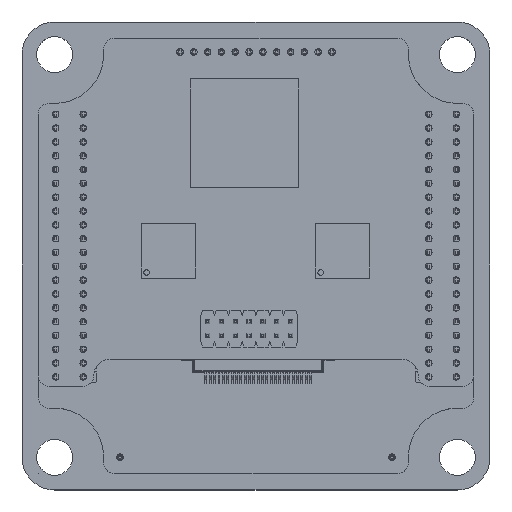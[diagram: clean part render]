
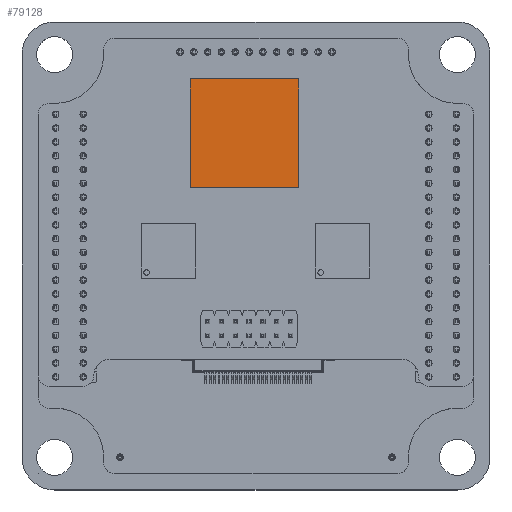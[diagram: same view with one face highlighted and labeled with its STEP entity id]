
A CAD part, top view. The second image highlights one B-rep face of the part: STEP entity #79128.
In plain terms, the highlighted planar face has unit normal (0, 0, 1).
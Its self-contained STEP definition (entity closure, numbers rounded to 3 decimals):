
#78814 = VERTEX_POINT('',#78815);
#78815 = CARTESIAN_POINT('',(-5.,-5.,1.));
#78822 = PLANE('',#78823);
#78823 = AXIS2_PLACEMENT_3D('',#78824,#78825,#78826);
#78824 = CARTESIAN_POINT('',(-5.,-5.,0.));
#78825 = DIRECTION('',(0.,1.,0.));
#78826 = DIRECTION('',(1.,0.,0.));
#78834 = PLANE('',#78835);
#78835 = AXIS2_PLACEMENT_3D('',#78836,#78837,#78838);
#78836 = CARTESIAN_POINT('',(-5.,5.,0.));
#78837 = DIRECTION('',(1.,0.,0.));
#78838 = DIRECTION('',(0.,-1.,0.));
#78846 = EDGE_CURVE('',#78814,#78847,#78849,.T.);
#78847 = VERTEX_POINT('',#78848);
#78848 = CARTESIAN_POINT('',(5.,-5.,1.));
#78849 = SURFACE_CURVE('',#78850,(#78854,#78861),.PCURVE_S1.);
#78850 = LINE('',#78851,#78852);
#78851 = CARTESIAN_POINT('',(-5.,-5.,1.));
#78852 = VECTOR('',#78853,1.);
#78853 = DIRECTION('',(1.,0.,0.));
#78854 = PCURVE('',#78822,#78855);
#78855 = DEFINITIONAL_REPRESENTATION('',(#78856),#78860);
#78856 = LINE('',#78857,#78858);
#78857 = CARTESIAN_POINT('',(0.,-1.));
#78858 = VECTOR('',#78859,1.);
#78859 = DIRECTION('',(1.,0.));
#78860 = ( GEOMETRIC_REPRESENTATION_CONTEXT(2) 
PARAMETRIC_REPRESENTATION_CONTEXT() REPRESENTATION_CONTEXT('2D SPACE',''
  ) );
#78861 = PCURVE('',#78862,#78867);
#78862 = PLANE('',#78863);
#78863 = AXIS2_PLACEMENT_3D('',#78864,#78865,#78866);
#78864 = CARTESIAN_POINT('',(-5.,-5.,1.));
#78865 = DIRECTION('',(0.,0.,-1.));
#78866 = DIRECTION('',(-1.,0.,0.));
#78867 = DEFINITIONAL_REPRESENTATION('',(#78868),#78872);
#78868 = LINE('',#78869,#78870);
#78869 = CARTESIAN_POINT('',(0.,0.));
#78870 = VECTOR('',#78871,1.);
#78871 = DIRECTION('',(-1.,0.));
#78872 = ( GEOMETRIC_REPRESENTATION_CONTEXT(2) 
PARAMETRIC_REPRESENTATION_CONTEXT() REPRESENTATION_CONTEXT('2D SPACE',''
  ) );
#78890 = PLANE('',#78891);
#78891 = AXIS2_PLACEMENT_3D('',#78892,#78893,#78894);
#78892 = CARTESIAN_POINT('',(5.,-5.,0.));
#78893 = DIRECTION('',(-1.,0.,0.));
#78894 = DIRECTION('',(0.,1.,0.));
#78932 = EDGE_CURVE('',#78847,#78933,#78935,.T.);
#78933 = VERTEX_POINT('',#78934);
#78934 = CARTESIAN_POINT('',(5.,5.,1.));
#78935 = SURFACE_CURVE('',#78936,(#78940,#78947),.PCURVE_S1.);
#78936 = LINE('',#78937,#78938);
#78937 = CARTESIAN_POINT('',(5.,-5.,1.));
#78938 = VECTOR('',#78939,1.);
#78939 = DIRECTION('',(0.,1.,0.));
#78940 = PCURVE('',#78890,#78941);
#78941 = DEFINITIONAL_REPRESENTATION('',(#78942),#78946);
#78942 = LINE('',#78943,#78944);
#78943 = CARTESIAN_POINT('',(0.,-1.));
#78944 = VECTOR('',#78945,1.);
#78945 = DIRECTION('',(1.,0.));
#78946 = ( GEOMETRIC_REPRESENTATION_CONTEXT(2) 
PARAMETRIC_REPRESENTATION_CONTEXT() REPRESENTATION_CONTEXT('2D SPACE',''
  ) );
#78947 = PCURVE('',#78862,#78948);
#78948 = DEFINITIONAL_REPRESENTATION('',(#78949),#78953);
#78949 = LINE('',#78950,#78951);
#78950 = CARTESIAN_POINT('',(-10.,0.));
#78951 = VECTOR('',#78952,1.);
#78952 = DIRECTION('',(0.,1.));
#78953 = ( GEOMETRIC_REPRESENTATION_CONTEXT(2) 
PARAMETRIC_REPRESENTATION_CONTEXT() REPRESENTATION_CONTEXT('2D SPACE',''
  ) );
#78971 = PLANE('',#78972);
#78972 = AXIS2_PLACEMENT_3D('',#78973,#78974,#78975);
#78973 = CARTESIAN_POINT('',(5.,5.,0.));
#78974 = DIRECTION('',(0.,-1.,0.));
#78975 = DIRECTION('',(-1.,0.,0.));
#79008 = EDGE_CURVE('',#78933,#79009,#79011,.T.);
#79009 = VERTEX_POINT('',#79010);
#79010 = CARTESIAN_POINT('',(-5.,5.,1.));
#79011 = SURFACE_CURVE('',#79012,(#79016,#79023),.PCURVE_S1.);
#79012 = LINE('',#79013,#79014);
#79013 = CARTESIAN_POINT('',(5.,5.,1.));
#79014 = VECTOR('',#79015,1.);
#79015 = DIRECTION('',(-1.,0.,0.));
#79016 = PCURVE('',#78971,#79017);
#79017 = DEFINITIONAL_REPRESENTATION('',(#79018),#79022);
#79018 = LINE('',#79019,#79020);
#79019 = CARTESIAN_POINT('',(0.,-1.));
#79020 = VECTOR('',#79021,1.);
#79021 = DIRECTION('',(1.,0.));
#79022 = ( GEOMETRIC_REPRESENTATION_CONTEXT(2) 
PARAMETRIC_REPRESENTATION_CONTEXT() REPRESENTATION_CONTEXT('2D SPACE',''
  ) );
#79023 = PCURVE('',#78862,#79024);
#79024 = DEFINITIONAL_REPRESENTATION('',(#79025),#79029);
#79025 = LINE('',#79026,#79027);
#79026 = CARTESIAN_POINT('',(-10.,10.));
#79027 = VECTOR('',#79028,1.);
#79028 = DIRECTION('',(1.,0.));
#79029 = ( GEOMETRIC_REPRESENTATION_CONTEXT(2) 
PARAMETRIC_REPRESENTATION_CONTEXT() REPRESENTATION_CONTEXT('2D SPACE',''
  ) );
#79079 = EDGE_CURVE('',#79009,#78814,#79080,.T.);
#79080 = SURFACE_CURVE('',#79081,(#79085,#79092),.PCURVE_S1.);
#79081 = LINE('',#79082,#79083);
#79082 = CARTESIAN_POINT('',(-5.,5.,1.));
#79083 = VECTOR('',#79084,1.);
#79084 = DIRECTION('',(0.,-1.,0.));
#79085 = PCURVE('',#78834,#79086);
#79086 = DEFINITIONAL_REPRESENTATION('',(#79087),#79091);
#79087 = LINE('',#79088,#79089);
#79088 = CARTESIAN_POINT('',(0.,-1.));
#79089 = VECTOR('',#79090,1.);
#79090 = DIRECTION('',(1.,0.));
#79091 = ( GEOMETRIC_REPRESENTATION_CONTEXT(2) 
PARAMETRIC_REPRESENTATION_CONTEXT() REPRESENTATION_CONTEXT('2D SPACE',''
  ) );
#79092 = PCURVE('',#78862,#79093);
#79093 = DEFINITIONAL_REPRESENTATION('',(#79094),#79098);
#79094 = LINE('',#79095,#79096);
#79095 = CARTESIAN_POINT('',(0.,10.));
#79096 = VECTOR('',#79097,1.);
#79097 = DIRECTION('',(0.,-1.));
#79098 = ( GEOMETRIC_REPRESENTATION_CONTEXT(2) 
PARAMETRIC_REPRESENTATION_CONTEXT() REPRESENTATION_CONTEXT('2D SPACE',''
  ) );
#79128 = ADVANCED_FACE('',(#79129),#78862,.F.);
#79129 = FACE_BOUND('',#79130,.T.);
#79130 = EDGE_LOOP('',(#79131,#79132,#79133,#79134));
#79131 = ORIENTED_EDGE('',*,*,#78846,.T.);
#79132 = ORIENTED_EDGE('',*,*,#78932,.T.);
#79133 = ORIENTED_EDGE('',*,*,#79008,.T.);
#79134 = ORIENTED_EDGE('',*,*,#79079,.T.);
